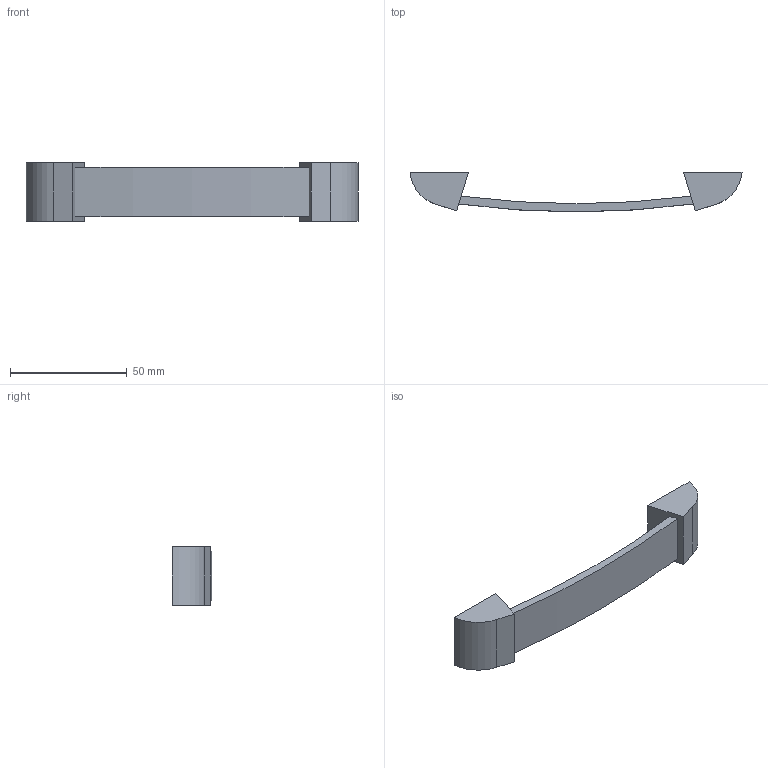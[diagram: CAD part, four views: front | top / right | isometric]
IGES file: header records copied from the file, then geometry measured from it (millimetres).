
Start section: Data from Parasolid IGES Translator 15.0.47, Copyright(c) 2006 Siemens P LM Software. All Rights Reserved.
Global section: file name: 9113454.igs; native system:  By UGS Corp.; preprocessor: XPlus GENERIC/IGES 3.0; author: Noname; organization: Noname; date: 20140122.104637; units: millimetre
Bounding box: 142 x 17 x 25 mm (x, y, z)
Surface area: 9584 mm2 (no closed solid volume)
Topology: 0 solids, 0 shells, 20 faces, 84 edges, 82 vertices
Faces by surface type: extrusion 14, revolution 6
